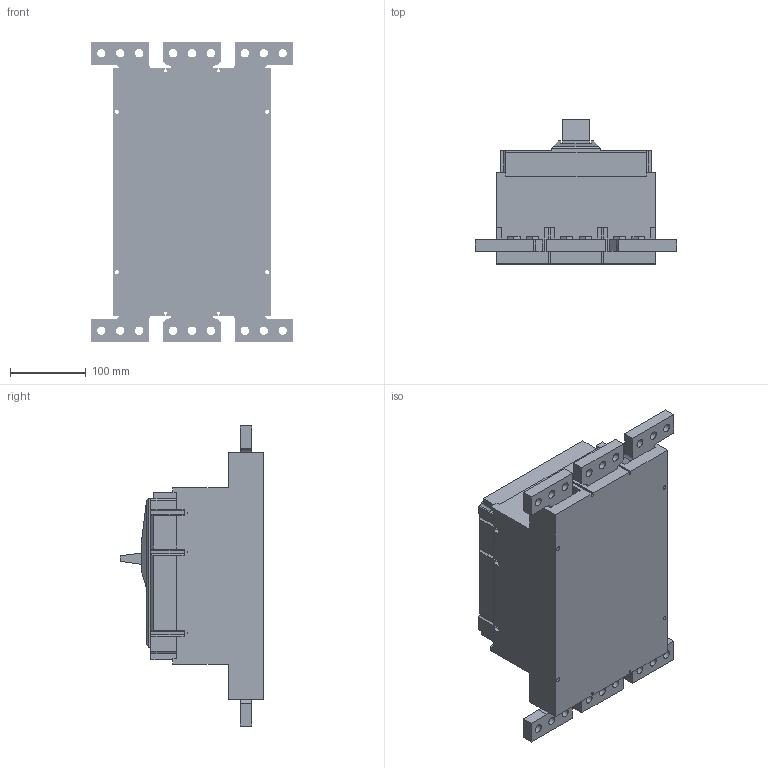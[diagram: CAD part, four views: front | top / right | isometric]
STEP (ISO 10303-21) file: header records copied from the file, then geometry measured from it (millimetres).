
FILE_DESCRIPTION(/* description */ ('','CAx-IF Rec.Pracs.---Representation and Presentation of Product Manufacturing Information (PMI)---3.8---2014-02-18'),/* implementation_level */ '2;1');
FILE_NAME(/* name */ 'E:\3D model\48-susol-mccb-1600af-iec-bus-3p.stp',/* time_stamp */ '2017-11-09T14:56:50+03:00',/* author */ ('dobrin'),/* organization */ (''),/* preprocessor_version */ 'ST-DEVELOPER v16.13',/* originating_system */ 'Autodesk Inventor 2018',/* authorisation */ '');
FILE_SCHEMA (('AP242_MANAGED_MODEL_BASED_3D_ENGINEERING_MIM_LF { 1 0 10303 442 1 1 4 }'));
Products named in the file (2): 48-susol-mccb-1600af-iec-bus-3p; 48-SUSOL-MCCB-1600AF-IEC-BUS-3P_SOLID_1
Assembly tree (1 placements, depth 2):
  48-susol-mccb-1600af-iec-bus-3p
    48-SUSOL-MCCB-1600AF-IEC-BUS-3P_SOLID_1
Bounding box: 267 x 190.6 x 397.2 mm (x, y, z)
Volume: 8078771.6 mm3; surface area: 421346.1 mm2
Topology: 1 solids, 7 shells, 1032 faces, 2764 edges, 1803 vertices
Faces by surface type: plane 678, bspline 180, cylinder 158, cone 10, torus 6
Full cylindrical faces by diameter (mm): 2.6 x4, 5.3 x4, 6 x6, 7 x6, 8.52 x6, 10 x12, 11 x18
Entity records: 104359 total; most frequent: CARTESIAN_POINT 79807, ORIENTED_EDGE 5398, DIRECTION 4313, EDGE_CURVE 2697, VERTEX_POINT 1796, LINE 1757, VECTOR 1757, AXIS2_PLACEMENT_3D 1282
